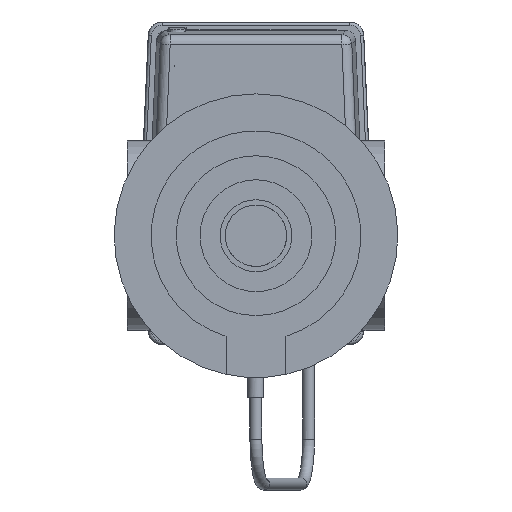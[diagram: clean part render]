
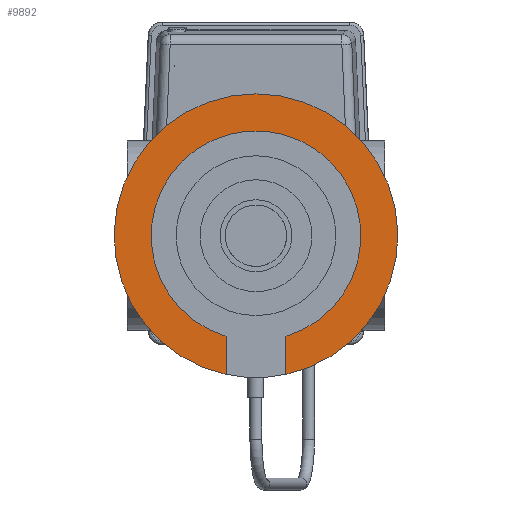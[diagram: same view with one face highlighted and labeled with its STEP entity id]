
A CAD part, front view. The second image highlights one B-rep face of the part: STEP entity #9892.
In plain terms, the highlighted planar face has unit normal (0, -1, 0).
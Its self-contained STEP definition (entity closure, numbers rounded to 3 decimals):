
#489=CIRCLE('',#10638,52.5);
#491=CIRCLE('',#10642,71.);
#978=LINE('',#19874,#1354);
#979=LINE('',#19876,#1355);
#1354=VECTOR('',#12472,1000.);
#1355=VECTOR('',#12473,1000.);
#1538=PLANE('',#10641);
#3357=ORIENTED_EDGE('',*,*,#4419,.T.);
#3358=ORIENTED_EDGE('',*,*,#4417,.T.);
#3359=ORIENTED_EDGE('',*,*,#4420,.T.);
#3360=ORIENTED_EDGE('',*,*,#4421,.F.);
#4417=EDGE_CURVE('',#5078,#5081,#489,.T.);
#4419=EDGE_CURVE('',#5083,#5078,#978,.T.);
#4420=EDGE_CURVE('',#5081,#5084,#979,.T.);
#4421=EDGE_CURVE('',#5083,#5084,#491,.T.);
#5078=VERTEX_POINT('',#19863);
#5081=VERTEX_POINT('',#19868);
#5083=VERTEX_POINT('',#19875);
#5084=VERTEX_POINT('',#19877);
#5845=EDGE_LOOP('',(#3357,#3358,#3359,#3360));
#6409=FACE_BOUND('',#5845,.T.);
#9892=ADVANCED_FACE('',(#6409),#1538,.F.);
#10638=AXIS2_PLACEMENT_3D('',#19869,#12464,#12465);
#10641=AXIS2_PLACEMENT_3D('',#19873,#12470,#12471);
#10642=AXIS2_PLACEMENT_3D('',#19878,#12474,#12475);
#12464=DIRECTION('',(0.,1.,0.));
#12465=DIRECTION('',(0.,0.,-1.));
#12470=DIRECTION('',(0.,1.,0.));
#12471=DIRECTION('',(0.,0.,1.));
#12472=DIRECTION('',(0.,0.,1.));
#12473=DIRECTION('',(0.,0.,-1.));
#12474=DIRECTION('',(0.,1.,0.));
#12475=DIRECTION('',(0.,0.,-1.));
#19863=CARTESIAN_POINT('',(-242.965,-20.9,-50.312));
#19868=CARTESIAN_POINT('',(-212.965,-20.9,-50.312));
#19869=CARTESIAN_POINT('',(-227.965,-20.9,0.));
#19873=CARTESIAN_POINT('',(-227.965,-20.9,0.));
#19874=CARTESIAN_POINT('',(-242.965,-20.9,0.));
#19875=CARTESIAN_POINT('',(-242.965,-20.9,-69.397));
#19876=CARTESIAN_POINT('',(-212.965,-20.9,0.));
#19877=CARTESIAN_POINT('',(-212.965,-20.9,-69.397));
#19878=CARTESIAN_POINT('',(-227.965,-20.9,0.));
